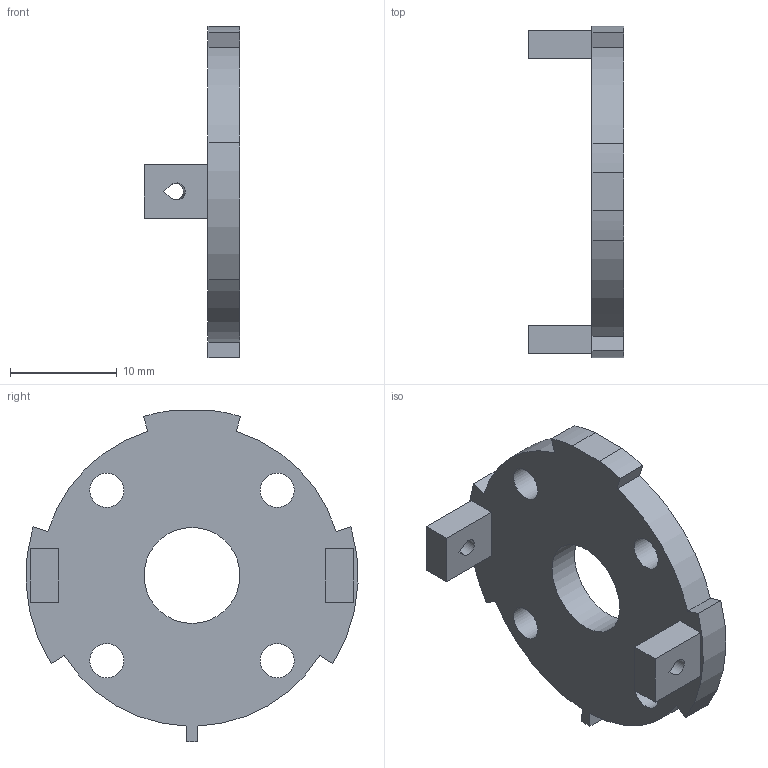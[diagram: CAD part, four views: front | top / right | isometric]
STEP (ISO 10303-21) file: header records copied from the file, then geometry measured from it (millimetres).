
FILE_DESCRIPTION(('SkyG Speed 90B - revision C6B-22 - 2026-10-16','M1-motor-plate'),'2;1');
FILE_NAME('M1-motor-plate_C6B-22','2026-10-16T19:15:22',('Author'),( 'Open CASCADE'),'Open CASCADE STEP processor 7.9','Open CASCADE 7.9' ,'Unknown');
FILE_SCHEMA(('AUTOMOTIVE_DESIGN { 1 0 10303 214 1 1 1 1 }'));
Length unit declared in the file: millimetre
Products named in the file (1): M1-motor-plate C6B-22
Bounding box: 9 x 31.17 x 31.1 mm (x, y, z)
Volume: 1902.6 mm3; surface area: 1891.6 mm2
Topology: 1 solids, 1 shells, 41 faces, 115 edges, 78 vertices
Faces by surface type: plane 25, cylinder 16
Full cylindrical faces by diameter (mm): 3.2 x4, 9 x1
Entity records: 2818 total; most frequent: CARTESIAN_POINT 645, DIRECTION 349, ORIENTED_EDGE 230, PCURVE 230, DEFINITIONAL_REPRESENTATION 230, LINE 157, VECTOR 157, B_SPLINE_CURVE_WITH_KNOTS 116
